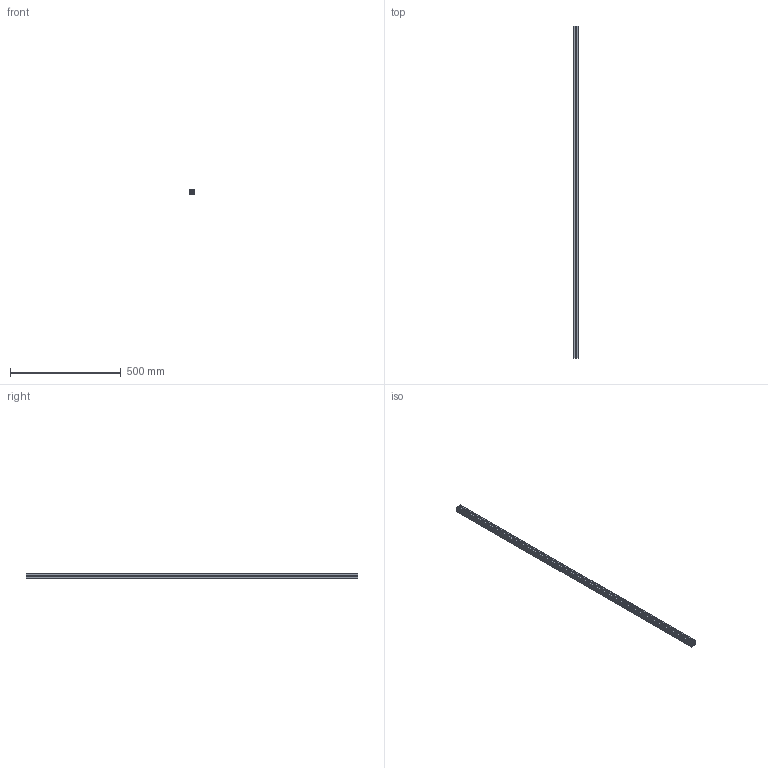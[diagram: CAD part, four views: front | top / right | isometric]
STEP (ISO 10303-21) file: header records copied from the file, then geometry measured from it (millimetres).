
FILE_DESCRIPTION (( 'STEP AP214' ), '1' );
FILE_NAME ('PEP2525-1500.STEP', '2019-10-30T01:08:13', ( '微软用户' ), ( '微软中国' ), 'SwSTEP 2.0', 'SolidWorks 2016', '' );
FILE_SCHEMA (( 'AUTOMOTIVE_DESIGN' ));
Length unit declared in the file: millimetre
Products named in the file (1): PEP2525-1500
Bounding box: 25 x 1500 x 25 mm (x, y, z)
Volume: 377877.8 mm3; surface area: 393238.3 mm2
Topology: 1 solids, 1 shells, 89 faces, 261 edges, 174 vertices
Faces by surface type: cylinder 55, plane 34
Entity records: 3059 total; most frequent: DIRECTION 551, CARTESIAN_POINT 525, ORIENTED_EDGE 522, EDGE_CURVE 261, AXIS2_PLACEMENT_3D 200, VERTEX_POINT 174, VECTOR 151, LINE 151
